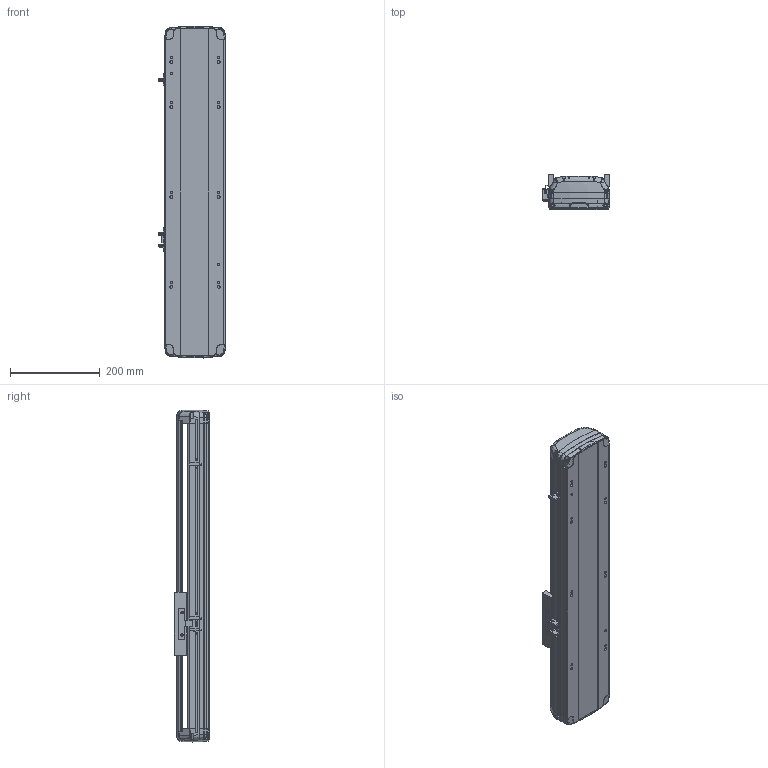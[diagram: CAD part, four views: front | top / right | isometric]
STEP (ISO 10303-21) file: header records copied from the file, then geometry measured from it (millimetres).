
FILE_DESCRIPTION (( 'STEP AP214' ), '1' );
FILE_NAME ('RTH14-XX-350-B-M20-C4.STEP', '2025-10-25T02:19:36', ( 'Microsoft' ), ( 'Microsoft' ), 'SwSTEP 2.0', 'SolidWorks 2018', '' );
FILE_SCHEMA (( 'AUTOMOTIVE_DESIGN' ));
Length unit declared in the file: millimetre
Products named in the file (7): N_RTH14-GY-001P^RTH14-XX-XX-B-M20-C4; N_RTH14-R-004-SFSR16賑釱^RTH14-XX-XX-B-M20-C4; N_RTH14-B-011P菁釱^RTH14-XX-XX-B-M20-C4; N_OMRON EE-SX672 传感器^RTH14-XX-XX-B-M20-C4; N_RTH13-L-012感应片（外置）^RTH14-XX-XX-B-M20-C4; RTH14-XX-350-B-M20-C4; N_RTH14-B-007奻裔^RTH14-XX-XX-B-M20-C4
Assembly tree (9 placements, depth 2):
  RTH14-XX-350-B-M20-C4
    N_RTH14-B-011P菁釱^RTH14-XX-XX-B-M20-C4
    N_RTH14-B-007奻裔^RTH14-XX-XX-B-M20-C4
    N_RTH13-L-012感应片（外置）^RTH14-XX-XX-B-M20-C4
    N_OMRON EE-SX672 传感器^RTH14-XX-XX-B-M20-C4  x3
    N_RTH14-R-004-SFSR16賑釱^RTH14-XX-XX-B-M20-C4
    N_RTH14-GY-001P^RTH14-XX-XX-B-M20-C4  x2
Bounding box: 148.5 x 78.03 x 738.74 mm (x, y, z)
Volume: 3152475.4 mm3; surface area: 738460.1 mm2
Topology: 9 solids, 9 shells, 1900 faces, 5350 edges, 3482 vertices
Faces by surface type: plane 975, bspline 450, cylinder 411, cone 56, torus 8
Entity records: 45974 total; most frequent: CARTESIAN_POINT 20702, ORIENTED_EDGE 5716, DIRECTION 4161, EDGE_CURVE 2858, VERTEX_POINT 1868, VECTOR 1617, LINE 1617, AXIS2_PLACEMENT_3D 1272
